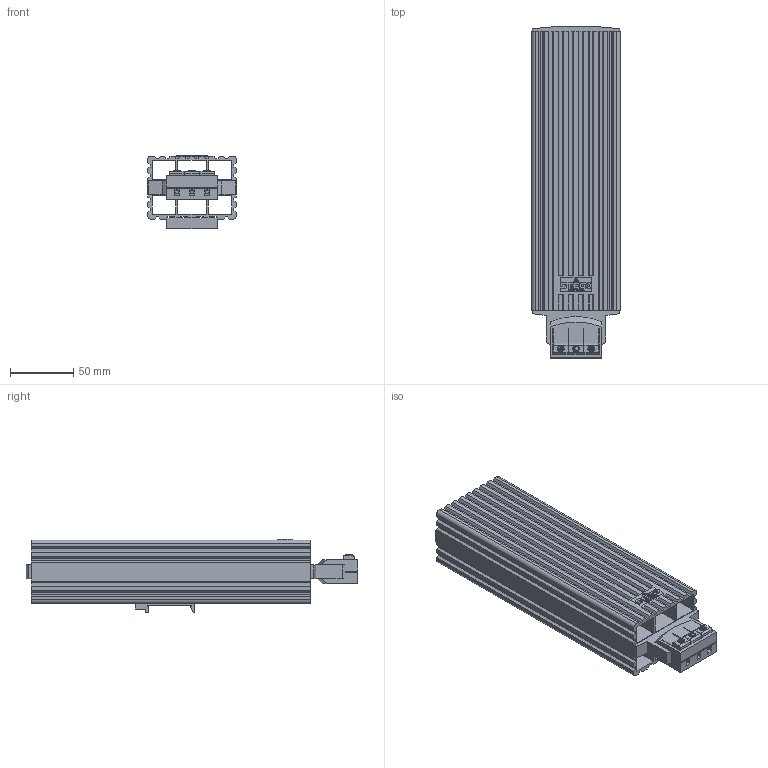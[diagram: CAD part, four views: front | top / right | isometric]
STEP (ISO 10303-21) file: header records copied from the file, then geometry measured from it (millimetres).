
FILE_DESCRIPTION (( 'STEP AP214' ), '1' );
FILE_NAME ('HG140_220mm_eplan_10_2012.STEP', '2012-10-26T12:35:26', ( 'Nutzer' ), ( '' ), 'SwSTEP 2.0', 'SolidWorks 2012', '' );
FILE_SCHEMA (( 'AUTOMOTIVE_DESIGN' ));
Length unit declared in the file: millimetre
Products named in the file (1): HG140_220mm_eplan_10_2012
Bounding box: 70 x 261.73 x 58.25 mm (x, y, z)
Volume: 367561.3 mm3; surface area: 169555.4 mm2
Topology: 10 solids, 10 shells, 501 faces, 1402 edges, 920 vertices
Faces by surface type: plane 420, bspline 46, cylinder 33, cone 2
Entity records: 16199 total; most frequent: CARTESIAN_POINT 3413, ORIENTED_EDGE 2804, DIRECTION 2288, EDGE_CURVE 1402, LINE 1234, VECTOR 1234, VERTEX_POINT 920, AXIS2_PLACEMENT_3D 527
